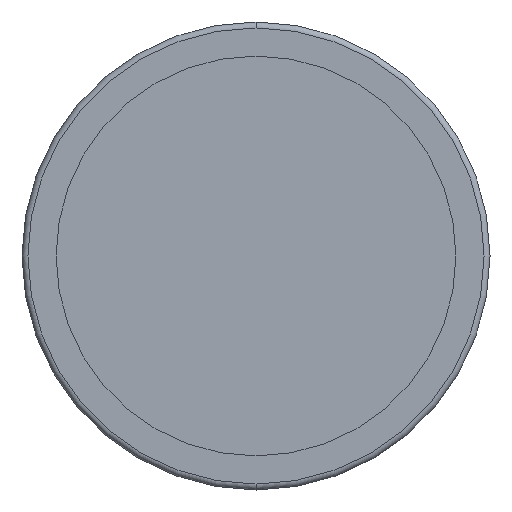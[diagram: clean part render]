
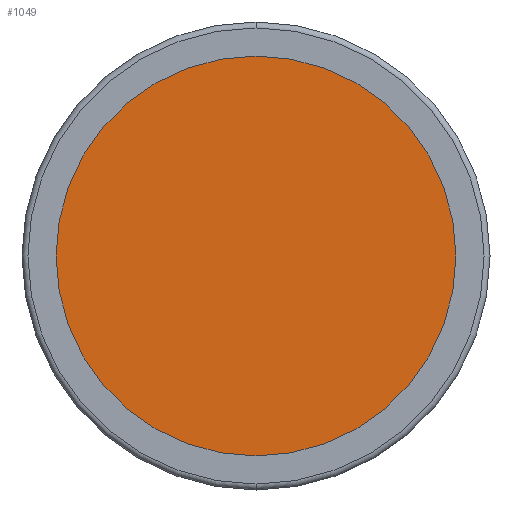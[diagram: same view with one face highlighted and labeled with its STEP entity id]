
A CAD part, front view. The second image highlights one B-rep face of the part: STEP entity #1049.
In plain terms, the highlighted planar face has unit normal (0, -1, 0).
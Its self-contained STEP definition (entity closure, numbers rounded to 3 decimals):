
#111 = VERTEX_POINT ( 'NONE', #1423 ) ;
#147 = CIRCLE ( 'NONE', #932, 33.75 ) ;
#165 = DIRECTION ( 'NONE',  ( 0., 0., 1. ) ) ;
#273 = VERTEX_POINT ( 'NONE', #1504 ) ;
#311 = ORIENTED_EDGE ( 'NONE', *, *, #952, .F. ) ;
#429 = DIRECTION ( 'NONE',  ( 0., 0., 1. ) ) ;
#589 = FACE_OUTER_BOUND ( 'NONE', #1920, .T. ) ;
#698 = AXIS2_PLACEMENT_3D ( 'NONE', #1822, #2448, #165 ) ;
#773 = CIRCLE ( 'NONE', #698, 33.75 ) ;
#842 = CARTESIAN_POINT ( 'NONE',  ( 0., -2., 0. ) ) ;
#932 = AXIS2_PLACEMENT_3D ( 'NONE', #842, #2154, #429 ) ;
#951 = CARTESIAN_POINT ( 'NONE',  ( -33.75, -2., 0. ) ) ;
#952 = EDGE_CURVE ( 'NONE', #111, #273, #773, .T. ) ;
#1049 = ADVANCED_FACE ( 'NONE', ( #589 ), #1378, .T. ) ;
#1156 = DIRECTION ( 'NONE',  ( 0., -1., 0. ) ) ;
#1378 = PLANE ( 'NONE',  #1864 ) ;
#1423 = CARTESIAN_POINT ( 'NONE',  ( 0., -2., -33.75 ) ) ;
#1504 = CARTESIAN_POINT ( 'NONE',  ( 0., -2., 33.75 ) ) ;
#1669 = ORIENTED_EDGE ( 'NONE', *, *, #2015, .F. ) ;
#1822 = CARTESIAN_POINT ( 'NONE',  ( 0., -2., 0. ) ) ;
#1864 = AXIS2_PLACEMENT_3D ( 'NONE', #951, #1156, #2127 ) ;
#1920 = EDGE_LOOP ( 'NONE', ( #1669, #311 ) ) ;
#2015 = EDGE_CURVE ( 'NONE', #273, #111, #147, .T. ) ;
#2127 = DIRECTION ( 'NONE',  ( 0., 0., -1. ) ) ;
#2154 = DIRECTION ( 'NONE',  ( 0., 1., 0. ) ) ;
#2448 = DIRECTION ( 'NONE',  ( 0., 1., 0. ) ) ;
